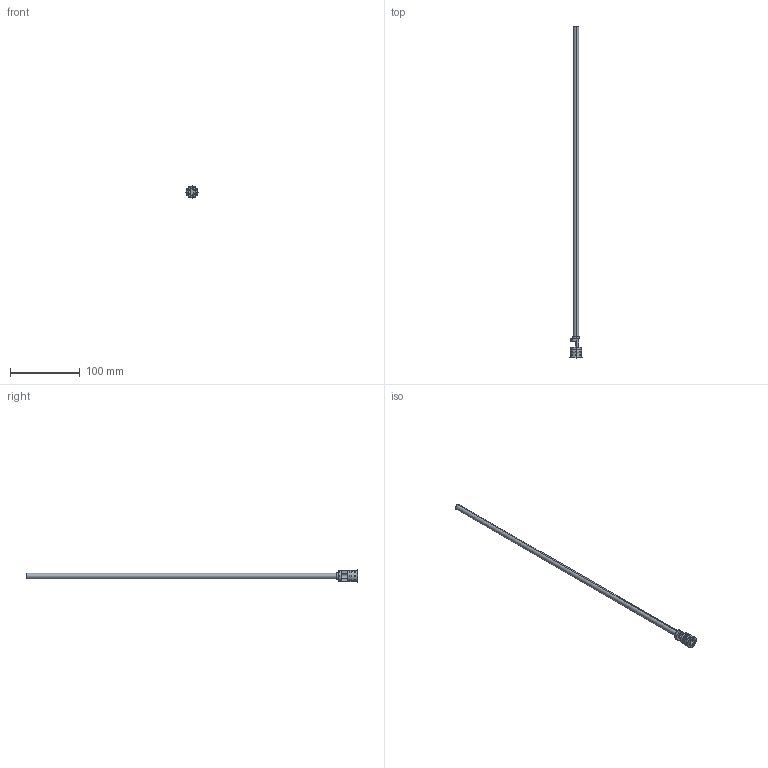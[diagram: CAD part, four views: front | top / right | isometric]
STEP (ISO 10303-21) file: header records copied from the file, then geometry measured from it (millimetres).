
FILE_DESCRIPTION (( 'STEP AP203' ), '1' );
FILE_NAME ('RF-16Fx450.STEP', '2015-11-24T10:54:24', ( 'Balzi' ), ( '' ), 'SwSTEP 2.0', 'SolidWorks 2015', '' );
FILE_SCHEMA (( 'CONFIG_CONTROL_DESIGN' ));
Length unit declared in the file: millimetre
Products named in the file (1): RF-16Fx450
Bounding box: 17.5 x 477.5 x 17.5 mm (x, y, z)
Volume: 8722.2 mm3; surface area: 23809.8 mm2
Topology: 1 solids, 1 shells, 74 faces, 170 edges, 106 vertices
Faces by surface type: cylinder 26, plane 26, cone 14, torus 8
Entity records: 2194 total; most frequent: DIRECTION 401, CARTESIAN_POINT 370, ORIENTED_EDGE 340, EDGE_CURVE 170, AXIS2_PLACEMENT_3D 161, VERTEX_POINT 106, CIRCLE 86, EDGE_LOOP 84
